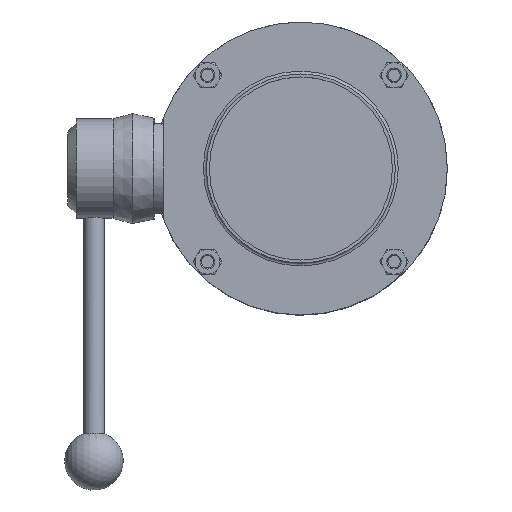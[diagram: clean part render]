
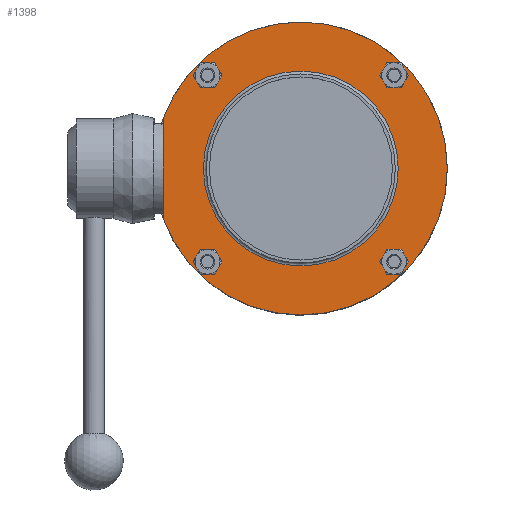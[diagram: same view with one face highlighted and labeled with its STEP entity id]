
A CAD part, top view. The second image highlights one B-rep face of the part: STEP entity #1398.
In plain terms, the highlighted planar face has unit normal (0, 0, 1) as drawn and (0, -1, 0) by its records, which use the part's own axes.
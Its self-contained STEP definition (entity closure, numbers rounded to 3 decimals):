
#163=FACE_BOUND('',#327,.T.);
#164=FACE_BOUND('',#328,.T.);
#165=FACE_BOUND('',#329,.T.);
#166=FACE_BOUND('',#330,.T.);
#167=FACE_BOUND('',#331,.T.);
#184=PLANE('',#1630);
#233=FACE_OUTER_BOUND('',#326,.T.);
#326=EDGE_LOOP('',(#1068,#1069));
#327=EDGE_LOOP('',(#1070));
#328=EDGE_LOOP('',(#1071));
#329=EDGE_LOOP('',(#1072));
#330=EDGE_LOOP('',(#1073));
#331=EDGE_LOOP('',(#1074,#1075));
#419=LINE('',#2310,#487);
#487=VECTOR('',#1861,10.);
#561=CIRCLE('',#1617,5.25);
#562=CIRCLE('',#1619,5.25);
#563=CIRCLE('',#1621,5.25);
#564=CIRCLE('',#1623,5.25);
#567=CIRCLE('',#1627,66.5);
#568=CIRCLE('',#1628,66.5);
#570=CIRCLE('',#1631,100.);
#653=VERTEX_POINT('',#2306);
#655=VERTEX_POINT('',#2309);
#663=VERTEX_POINT('',#2329);
#664=VERTEX_POINT('',#2333);
#665=VERTEX_POINT('',#2337);
#666=VERTEX_POINT('',#2341);
#669=VERTEX_POINT('',#2348);
#670=VERTEX_POINT('',#2350);
#798=EDGE_CURVE('',#655,#653,#419,.T.);
#808=EDGE_CURVE('',#663,#663,#561,.T.);
#810=EDGE_CURVE('',#664,#664,#562,.T.);
#812=EDGE_CURVE('',#665,#665,#563,.T.);
#814=EDGE_CURVE('',#666,#666,#564,.T.);
#818=EDGE_CURVE('',#670,#669,#567,.T.);
#819=EDGE_CURVE('',#669,#670,#568,.T.);
#821=EDGE_CURVE('',#655,#653,#570,.T.);
#1068=ORIENTED_EDGE('',*,*,#798,.T.);
#1069=ORIENTED_EDGE('',*,*,#821,.F.);
#1070=ORIENTED_EDGE('',*,*,#808,.T.);
#1071=ORIENTED_EDGE('',*,*,#810,.T.);
#1072=ORIENTED_EDGE('',*,*,#812,.T.);
#1073=ORIENTED_EDGE('',*,*,#814,.T.);
#1074=ORIENTED_EDGE('',*,*,#818,.T.);
#1075=ORIENTED_EDGE('',*,*,#819,.T.);
#1398=ADVANCED_FACE('',(#233,#163,#164,#165,#166,#167),#184,.T.);
#1617=AXIS2_PLACEMENT_3D('',#2330,#1882,#1883);
#1619=AXIS2_PLACEMENT_3D('',#2334,#1887,#1888);
#1621=AXIS2_PLACEMENT_3D('',#2338,#1892,#1893);
#1623=AXIS2_PLACEMENT_3D('',#2342,#1897,#1898);
#1627=AXIS2_PLACEMENT_3D('',#2351,#1906,#1907);
#1628=AXIS2_PLACEMENT_3D('',#2352,#1908,#1909);
#1630=AXIS2_PLACEMENT_3D('',#2354,#1912,#1913);
#1631=AXIS2_PLACEMENT_3D('',#2355,#1914,#1915);
#1861=DIRECTION('',(-1.,0.,0.));
#1882=DIRECTION('center_axis',(0.,1.,0.));
#1883=DIRECTION('ref_axis',(-1.,0.,0.));
#1887=DIRECTION('center_axis',(0.,1.,0.));
#1888=DIRECTION('ref_axis',(-1.,0.,0.));
#1892=DIRECTION('center_axis',(0.,1.,0.));
#1893=DIRECTION('ref_axis',(-1.,0.,0.));
#1897=DIRECTION('center_axis',(0.,1.,0.));
#1898=DIRECTION('ref_axis',(-1.,0.,0.));
#1906=DIRECTION('center_axis',(0.,1.,0.));
#1907=DIRECTION('ref_axis',(1.,0.,0.));
#1908=DIRECTION('center_axis',(0.,1.,0.));
#1909=DIRECTION('ref_axis',(1.,0.,0.));
#1912=DIRECTION('center_axis',(0.,-1.,0.));
#1913=DIRECTION('ref_axis',(0.,0.,-1.));
#1914=DIRECTION('center_axis',(0.,1.,0.));
#1915=DIRECTION('ref_axis',(1.,0.,0.));
#2306=CARTESIAN_POINT('',(-34.117,-16.,94.));
#2309=CARTESIAN_POINT('',(34.117,-16.,94.));
#2310=CARTESIAN_POINT('',(66.5,-16.,94.));
#2329=CARTESIAN_POINT('',(68.89,-16.,-63.64));
#2330=CARTESIAN_POINT('Origin',(63.64,-16.,-63.64));
#2333=CARTESIAN_POINT('',(-58.39,-16.,63.64));
#2334=CARTESIAN_POINT('Origin',(-63.64,-16.,63.64));
#2337=CARTESIAN_POINT('',(-58.39,-16.,-63.64));
#2338=CARTESIAN_POINT('Origin',(-63.64,-16.,-63.64));
#2341=CARTESIAN_POINT('',(68.89,-16.,63.64));
#2342=CARTESIAN_POINT('Origin',(63.64,-16.,63.64));
#2348=CARTESIAN_POINT('',(0.,-16.,-66.5));
#2350=CARTESIAN_POINT('',(0.,-16.,66.5));
#2351=CARTESIAN_POINT('Origin',(0.,-16.,0.));
#2352=CARTESIAN_POINT('Origin',(0.,-16.,0.));
#2354=CARTESIAN_POINT('Origin',(0.,-16.,100.));
#2355=CARTESIAN_POINT('Origin',(0.,-16.,0.));
